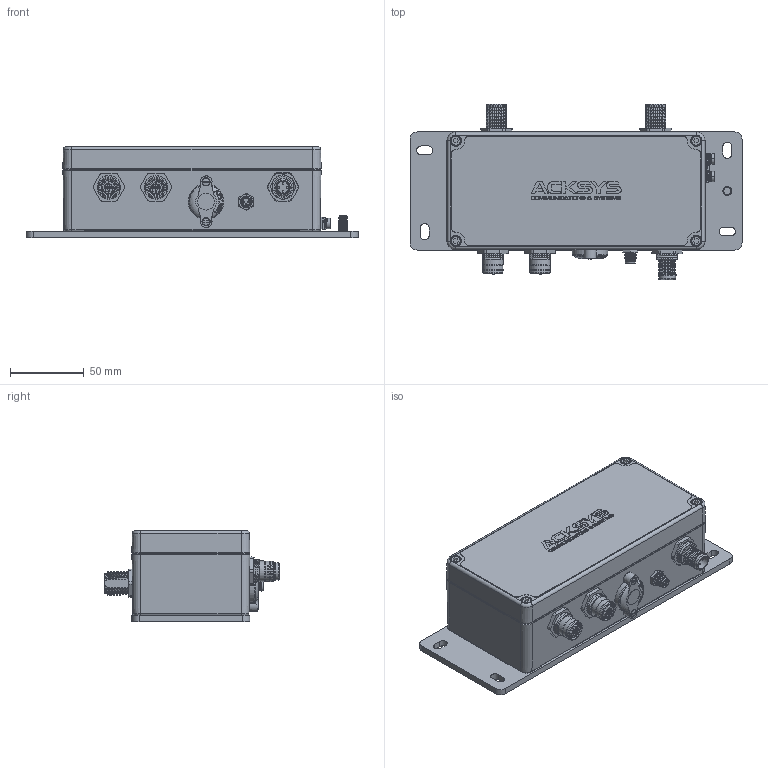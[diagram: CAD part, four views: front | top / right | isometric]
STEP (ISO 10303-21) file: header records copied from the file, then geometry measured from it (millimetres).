
FILE_DESCRIPTION(/* description */ (''),/* implementation_level */ '2;1');
FILE_NAME(/* name */ 'C:\Users\Jonathan\Documents\RuggedAir\Méca\RuggedAir_1A+WL-PLT-1.3D(step_ap214).A1.stp',/* time_stamp */ '2020-04-28T18:27:21+02:00',/* author */ ('Jonathan'),/* organization */ (''),/* preprocessor_version */ 'ST-DEVELOPER v18',/* originating_system */ 'AutoCAD Mechanical',/* authorisation */ '');
FILE_SCHEMA (('AUTOMOTIVE_DESIGN { 1 0 10303 214 3 1 1 }'));
Products named in the file (2): Product1; Product
Assembly tree (1 placements, depth 2):
  Product1
    Product
Bounding box: 225 x 118.7 x 62 mm (x, y, z)
Volume: 282829.1 mm3; surface area: 160324.4 mm2
Topology: 2 solids, 21 shells, 2513 faces, 6593 edges, 4224 vertices
Faces by surface type: plane 1555, cone 469, cylinder 325, torus 99, bspline 38, sphere 27
Full cylindrical faces by diameter (mm): 1 x3, 1.2 x18, 1.68 x2, 2.6 x2, 3 x2, 3.141 x6, 3.2 x2, 3.3 x5, 4 x8, 4.5 x8, 5.8 x1, 6 x13, 6.159 x1, 6.5 x3, 6.9 x1, 7 x6, 7.065 x4, 8 x1, 9 x3, 9.574 x3, 10.996 x2, 11.2 x1, 11.574 x2, 12.138 x1, 13.333 x2, 13.677 x4, 14 x7, 14.6 x1, 16 x4, 22.3 x2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
Entity records: 77999 total; most frequent: CARTESIAN_POINT 16713, ORIENTED_EDGE 13158, DIRECTION 12374, EDGE_CURVE 6579, LINE 4288, VECTOR 4288, VERTEX_POINT 4223, AXIS2_PLACEMENT_3D 4043
